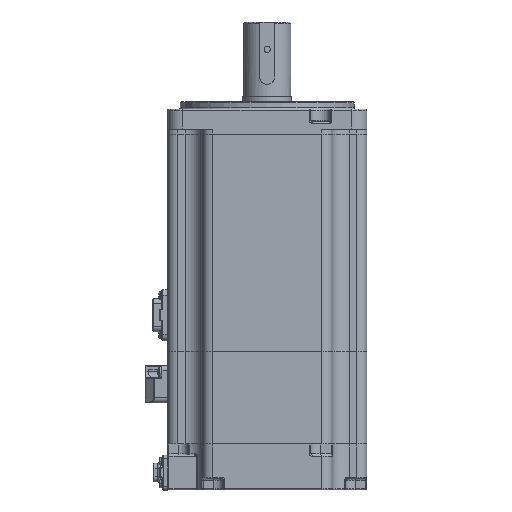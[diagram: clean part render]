
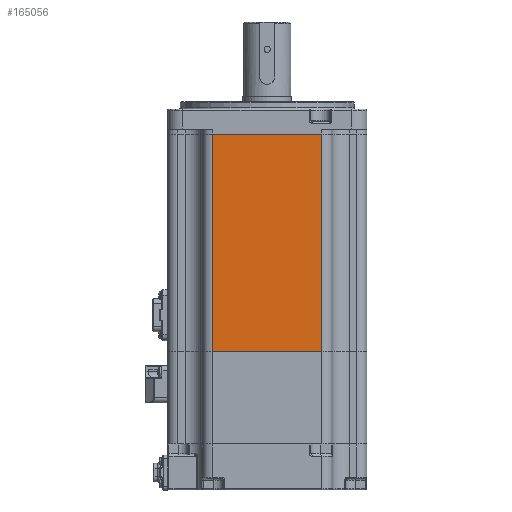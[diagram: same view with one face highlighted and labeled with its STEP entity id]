
A CAD part, left-side view. The second image highlights one B-rep face of the part: STEP entity #165056.
In plain terms, the highlighted planar face has unit normal (-1, 0, 0) as drawn and (0, -1, 0) by its records, which use the part's own axes.
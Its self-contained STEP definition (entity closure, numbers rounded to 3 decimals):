
#5493 = DIRECTION ( 'NONE',  ( 0., 1., 0. ) ) ;
#14187 = CARTESIAN_POINT ( 'NONE',  ( -33., -40., 0. ) ) ;
#14633 = CARTESIAN_POINT ( 'NONE',  ( 22., -40., 87.5 ) ) ;
#15285 = CARTESIAN_POINT ( 'NONE',  ( -22., -40., 87.5 ) ) ;
#17628 = CARTESIAN_POINT ( 'NONE',  ( 22., -40., 87.5 ) ) ;
#18583 = LINE ( 'NONE', #14187, #46221 ) ;
#24218 = EDGE_CURVE ( 'NONE', #24697, #59014, #18583, .T. ) ;
#24697 = VERTEX_POINT ( 'NONE', #112104 ) ;
#29488 = VECTOR ( 'NONE', #170588, 1000. ) ;
#33119 = EDGE_CURVE ( 'NONE', #24697, #176363, #97180, .T. ) ;
#33829 = DIRECTION ( 'NONE',  ( 0., 0., -1. ) ) ;
#43685 = FACE_OUTER_BOUND ( 'NONE', #153808, .T. ) ;
#45586 = LINE ( 'NONE', #17628, #48161 ) ;
#46221 = VECTOR ( 'NONE', #126394, 1000. ) ;
#48161 = VECTOR ( 'NONE', #33829, 1000. ) ;
#49855 = ORIENTED_EDGE ( 'NONE', *, *, #157141, .F. ) ;
#59014 = VERTEX_POINT ( 'NONE', #91505 ) ;
#67141 = ORIENTED_EDGE ( 'NONE', *, *, #117148, .F. ) ;
#74150 = CARTESIAN_POINT ( 'NONE',  ( -33., -40., 87.5 ) ) ;
#74639 = VERTEX_POINT ( 'NONE', #14633 ) ;
#88506 = CARTESIAN_POINT ( 'NONE',  ( -22., -40., 87.5 ) ) ;
#91505 = CARTESIAN_POINT ( 'NONE',  ( 22., -40., 0. ) ) ;
#97180 = LINE ( 'NONE', #88506, #29488 ) ;
#110467 = ORIENTED_EDGE ( 'NONE', *, *, #24218, .T. ) ;
#112104 = CARTESIAN_POINT ( 'NONE',  ( -22., -40., 0. ) ) ;
#117148 = EDGE_CURVE ( 'NONE', #74639, #59014, #45586, .T. ) ;
#126394 = DIRECTION ( 'NONE',  ( 1., 0., 0. ) ) ;
#133207 = DIRECTION ( 'NONE',  ( 0., 0., 1. ) ) ;
#142373 = AXIS2_PLACEMENT_3D ( 'NONE', #197797, #5493, #133207 ) ;
#148610 = LINE ( 'NONE', #74150, #204107 ) ;
#153808 = EDGE_LOOP ( 'NONE', ( #67141, #49855, #182638, #110467 ) ) ;
#157141 = EDGE_CURVE ( 'NONE', #176363, #74639, #148610, .T. ) ;
#165056 = ADVANCED_FACE ( 'NONE', ( #43685 ), #166882, .F. ) ;
#166882 = PLANE ( 'NONE',  #142373 ) ;
#170588 = DIRECTION ( 'NONE',  ( 0., 0., 1. ) ) ;
#176363 = VERTEX_POINT ( 'NONE', #15285 ) ;
#182638 = ORIENTED_EDGE ( 'NONE', *, *, #33119, .F. ) ;
#186439 = DIRECTION ( 'NONE',  ( 1., 0., 0. ) ) ;
#197797 = CARTESIAN_POINT ( 'NONE',  ( -22., -40., 87.5 ) ) ;
#204107 = VECTOR ( 'NONE', #186439, 1000. ) ;
